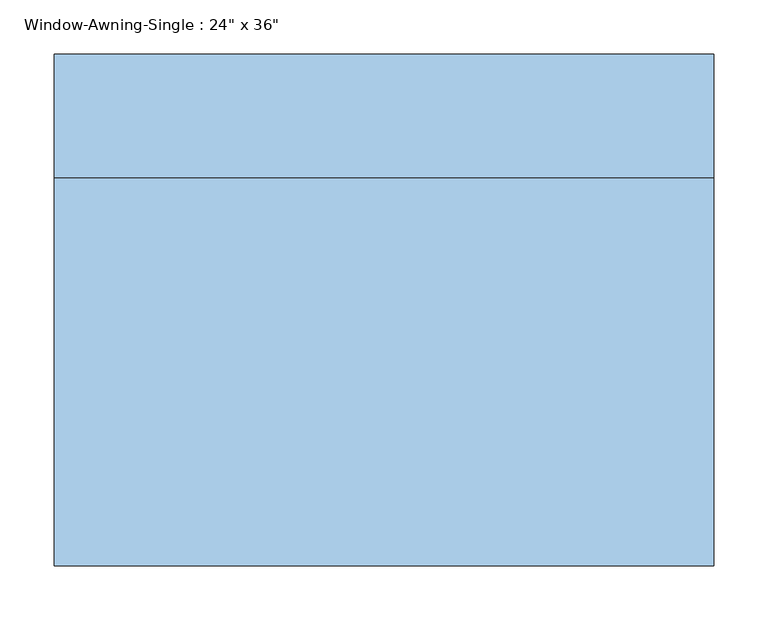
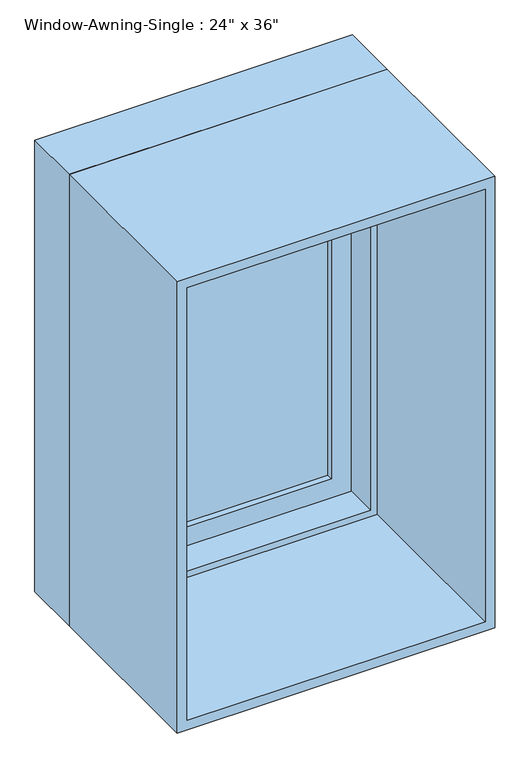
"""IFC4 building model written with IfcOpenShell, lengths in millimetres: window geometry."""

from ifc_helpers import new_model, si_unit, frame, origin, place, context, project, spatial, polyline, outline, extrude, faceted_brep, source, transform, mapped, element, save


def window_1658a7ae(model_context):
    return source(origin(), model_context, "Body", "SolidModel", [
        faceted_brep([(292.1, 195.2625, 927.1), (292.1, 246.0625, 927.1), (-292.1, 246.0625, 927.1), (-292.1, 195.2625, 927.1), (273.05, 131.7625, 946.15), (273.05, 195.2625, 946.15), (-273.05, 195.2625, 946.15), (-273.05, 131.7625, 946.15), (304.8, 246.0625, 914.4), (304.8, 131.7625, 914.4), (-304.8, 131.7625, 914.4), (-304.8, 246.0625, 914.4), (-292.1, 246.0625, 1816.1), (-292.1, 195.2625, 1816.1), (-273.05, 195.2625, 1797.05), (-273.05, 131.7625, 1797.05), (-304.8, 131.7625, 1828.8), (-304.8, 246.0625, 1828.8), (292.1, 246.0625, 1816.1), (292.1, 195.2625, 1816.1), (273.05, 195.2625, 1797.05), (273.05, 131.7625, 1797.05), (304.8, 131.7625, 1828.8), (304.8, 246.0625, 1828.8)], [[[0, 1, 2, 3]], [[4, 5, 6, 7]], [[8, 9, 10, 11]], [[3, 2, 12, 13]], [[7, 6, 14, 15]], [[11, 10, 16, 17]], [[13, 12, 18, 19]], [[15, 14, 20, 21]], [[17, 16, 22, 23]], [[11, 17, 23, 8], [1, 18, 12, 2]], [[19, 18, 1, 0]], [[3, 13, 19, 0], [5, 20, 14, 6]], [[21, 20, 5, 4]], [[9, 22, 16, 10], [7, 15, 21, 4]], [[23, 22, 9, 8]]]),
        extrude(outline(polyline([(234.95, 227.0125), (234.95, 220.6625), (-234.95, 220.6625), (-234.95, 227.0125), (234.95, 227.0125)])), frame((0.0, 0.0, 984.25), z_axis=(0.0, 0.0, 1.0), x_axis=(1.0, 0.0, 0.0)), (0.0, 0.0, 1.0), 774.7),
        extrude(outline(polyline([(234.95, 214.3125), (234.95, 207.9625), (-234.95, 207.9625), (-234.95, 214.3125), (234.95, 214.3125)])), frame((0.0, 0.0, 984.25), z_axis=(0.0, 0.0, 1.0), x_axis=(1.0, 0.0, 0.0)), (0.0, 0.0, 1.0), 774.7),
        extrude(outline(polyline([(927.1, -292.1), (927.1, 292.1), (1816.1, 292.1), (1816.1, -292.1), (927.1, -292.1)]), holes=[polyline([(1758.95, -234.95), (1758.95, 234.95), (984.25, 234.95), (984.25, -234.95), (1758.95, -234.95)])]), frame((0.0, 195.2625, 0.0), z_axis=(0.0, 1.0, 0.0), x_axis=(0.0, 0.0, 1.0)), (0.0, 0.0, 1.0), 44.45),
        extrude(outline(polyline([(1828.8, -304.8), (914.4, -304.8), (914.4, 304.8), (1828.8, 304.8), (1828.8, -304.8)]), holes=[polyline([(1809.75, -285.75), (1809.75, 285.75), (933.45, 285.75), (933.45, -285.75), (1809.75, -285.75)])]), frame((0.0, -227.0125, 0.0), z_axis=(0.0, 1.0, 0.0), x_axis=(0.0, 0.0, 1.0)), (0.0, 0.0, 1.0), 358.775),
    ])


if __name__ == "__main__":
    model = new_model("IFC4")
    model_context = context("Model", 3, world=origin())
    ifc_project = project(units=[si_unit("LENGTHUNIT", "METRE", prefix="MILLI")], contexts=[model_context])
    site = spatial("IfcSite", under=ifc_project)
    building = spatial("IfcBuilding", under=site)
    placement = place(None, origin())
    window_shape = window_1658a7ae(model_context)
    element("IfcWindow", 1, ObjectType="Window-Awning-Single : 24\" x 36\"", at=placement, inside=building, context=model_context, shape_type="MappedRepresentation", body=[
        mapped(window_shape, transform((0.0, 0.0, 0.0), x_axis=(1.0, 0.0, 0.0), y_axis=(0.0, 1.0, 0.0), z_axis=(0.0, 0.0, 1.0))),
    ])
    save(model, "model.ifc")
